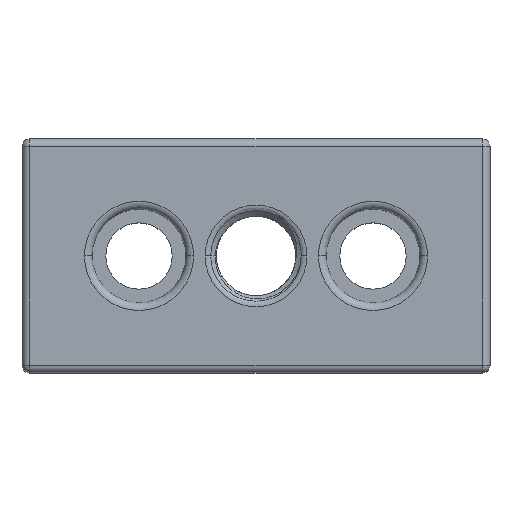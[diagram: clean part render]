
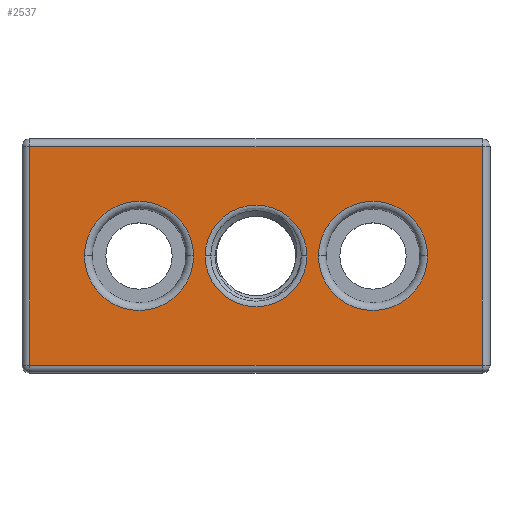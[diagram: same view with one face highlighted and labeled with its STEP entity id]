
A CAD part, top view. The second image highlights one B-rep face of the part: STEP entity #2537.
In plain terms, the highlighted planar face has unit normal (0, 0, 1).
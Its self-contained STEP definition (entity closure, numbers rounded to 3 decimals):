
#28 = FACE_BOUND ( 'NONE', #1954, .T. ) ;
#112 = DIRECTION ( 'NONE',  ( 0., 0., -1. ) ) ;
#115 = VECTOR ( 'NONE', #1552, 1000. ) ;
#137 = AXIS2_PLACEMENT_3D ( 'NONE', #1176, #866, #548 ) ;
#168 = VERTEX_POINT ( 'NONE', #1254 ) ;
#186 = FACE_OUTER_BOUND ( 'NONE', #366, .T. ) ;
#205 = CARTESIAN_POINT ( 'NONE',  ( 15., 0., 6. ) ) ;
#209 = DIRECTION ( 'NONE',  ( 0., 1., 0. ) ) ;
#256 = FACE_BOUND ( 'NONE', #1290, .T. ) ;
#267 = CIRCLE ( 'NONE', #1304, 7. ) ;
#294 = VECTOR ( 'NONE', #761, 1000. ) ;
#322 = CARTESIAN_POINT ( 'NONE',  ( 6.514, 0., 6. ) ) ;
#328 = AXIS2_PLACEMENT_3D ( 'NONE', #2538, #2228, #1926 ) ;
#366 = EDGE_LOOP ( 'NONE', ( #1082, #1781, #1404, #1292 ) ) ;
#373 = DIRECTION ( 'NONE',  ( -1., 0., 0. ) ) ;
#374 = DIRECTION ( 'NONE',  ( 1., 0., 0. ) ) ;
#375 = EDGE_CURVE ( 'NONE', #1799, #2929, #2118, .T. ) ;
#392 = CARTESIAN_POINT ( 'NONE',  ( -6.514, 0., 6. ) ) ;
#410 = CARTESIAN_POINT ( 'NONE',  ( 15., 0., 6. ) ) ;
#418 = DIRECTION ( 'NONE',  ( 1., 0., 0. ) ) ;
#462 = VERTEX_POINT ( 'NONE', #1538 ) ;
#477 = EDGE_LOOP ( 'NONE', ( #1763, #2143 ) ) ;
#506 = CARTESIAN_POINT ( 'NONE',  ( 29., 15., 6. ) ) ;
#516 = CARTESIAN_POINT ( 'NONE',  ( -29., -14., 6. ) ) ;
#529 = VERTEX_POINT ( 'NONE', #2243 ) ;
#548 = DIRECTION ( 'NONE',  ( 1., 0., 0. ) ) ;
#685 = CARTESIAN_POINT ( 'NONE',  ( -30., 14., 6. ) ) ;
#686 = DIRECTION ( 'NONE',  ( 0., 0., -1. ) ) ;
#687 = AXIS2_PLACEMENT_3D ( 'NONE', #1000, #686, #374 ) ;
#694 = AXIS2_PLACEMENT_3D ( 'NONE', #1637, #1333, #1014 ) ;
#724 = ORIENTED_EDGE ( 'NONE', *, *, #2472, .T. ) ;
#734 = DIRECTION ( 'NONE',  ( 0., 0., -1. ) ) ;
#756 = VERTEX_POINT ( 'NONE', #2012 ) ;
#761 = DIRECTION ( 'NONE',  ( 1., 0., 0. ) ) ;
#824 = LINE ( 'NONE', #506, #2665 ) ;
#848 = VERTEX_POINT ( 'NONE', #2803 ) ;
#866 = DIRECTION ( 'NONE',  ( 0., 0., -1. ) ) ;
#955 = CIRCLE ( 'NONE', #694, 7. ) ;
#999 = LINE ( 'NONE', #685, #1741 ) ;
#1000 = CARTESIAN_POINT ( 'NONE',  ( 0., 0., 6. ) ) ;
#1011 = ORIENTED_EDGE ( 'NONE', *, *, #2916, .T. ) ;
#1014 = DIRECTION ( 'NONE',  ( 1., 0., 0. ) ) ;
#1074 = CARTESIAN_POINT ( 'NONE',  ( 30., -14., 6. ) ) ;
#1082 = ORIENTED_EDGE ( 'NONE', *, *, #2509, .T. ) ;
#1176 = CARTESIAN_POINT ( 'NONE',  ( 0., 0., 6. ) ) ;
#1236 = ORIENTED_EDGE ( 'NONE', *, *, #375, .T. ) ;
#1251 = CIRCLE ( 'NONE', #1962, 7. ) ;
#1254 = CARTESIAN_POINT ( 'NONE',  ( 29., 14., 6. ) ) ;
#1290 = EDGE_LOOP ( 'NONE', ( #1236, #2286 ) ) ;
#1292 = ORIENTED_EDGE ( 'NONE', *, *, #1436, .T. ) ;
#1304 = AXIS2_PLACEMENT_3D ( 'NONE', #410, #112, #2835 ) ;
#1333 = DIRECTION ( 'NONE',  ( 0., 0., -1. ) ) ;
#1366 = CARTESIAN_POINT ( 'NONE',  ( -15., 0., 6. ) ) ;
#1404 = ORIENTED_EDGE ( 'NONE', *, *, #2273, .T. ) ;
#1436 = EDGE_CURVE ( 'NONE', #2214, #756, #1698, .T. ) ;
#1524 = CARTESIAN_POINT ( 'NONE',  ( -22., 0., 6. ) ) ;
#1538 = CARTESIAN_POINT ( 'NONE',  ( -29., 14., 6. ) ) ;
#1552 = DIRECTION ( 'NONE',  ( 0., -1., 0. ) ) ;
#1562 = EDGE_CURVE ( 'NONE', #2929, #1799, #1693, .T. ) ;
#1637 = CARTESIAN_POINT ( 'NONE',  ( -15., 0., 6. ) ) ;
#1644 = CIRCLE ( 'NONE', #1991, 7. ) ;
#1693 = CIRCLE ( 'NONE', #687, 6.514 ) ;
#1698 = LINE ( 'NONE', #1074, #294 ) ;
#1741 = VECTOR ( 'NONE', #373, 1000. ) ;
#1763 = ORIENTED_EDGE ( 'NONE', *, *, #1882, .T. ) ;
#1781 = ORIENTED_EDGE ( 'NONE', *, *, #2611, .T. ) ;
#1799 = VERTEX_POINT ( 'NONE', #322 ) ;
#1860 = CARTESIAN_POINT ( 'NONE',  ( -29., -15., 6. ) ) ;
#1871 = VERTEX_POINT ( 'NONE', #1524 ) ;
#1882 = EDGE_CURVE ( 'NONE', #848, #529, #1644, .T. ) ;
#1908 = CARTESIAN_POINT ( 'NONE',  ( -8., 0., 6. ) ) ;
#1926 = DIRECTION ( 'NONE',  ( 1., 0., 0. ) ) ;
#1954 = EDGE_LOOP ( 'NONE', ( #1011, #724 ) ) ;
#1962 = AXIS2_PLACEMENT_3D ( 'NONE', #1366, #734, #418 ) ;
#1991 = AXIS2_PLACEMENT_3D ( 'NONE', #205, #2613, #2297 ) ;
#2012 = CARTESIAN_POINT ( 'NONE',  ( 29., -14., 6. ) ) ;
#2118 = CIRCLE ( 'NONE', #137, 6.514 ) ;
#2143 = ORIENTED_EDGE ( 'NONE', *, *, #2749, .T. ) ;
#2164 = LINE ( 'NONE', #1860, #115 ) ;
#2214 = VERTEX_POINT ( 'NONE', #516 ) ;
#2228 = DIRECTION ( 'NONE',  ( 0., 0., 1. ) ) ;
#2243 = CARTESIAN_POINT ( 'NONE',  ( 8., 0., 6. ) ) ;
#2273 = EDGE_CURVE ( 'NONE', #462, #2214, #2164, .T. ) ;
#2286 = ORIENTED_EDGE ( 'NONE', *, *, #1562, .T. ) ;
#2297 = DIRECTION ( 'NONE',  ( 1., 0., 0. ) ) ;
#2472 = EDGE_CURVE ( 'NONE', #1871, #3042, #1251, .T. ) ;
#2509 = EDGE_CURVE ( 'NONE', #756, #168, #824, .T. ) ;
#2537 = ADVANCED_FACE ( 'NONE', ( #2746, #28, #186, #256 ), #2870, .T. ) ;
#2538 = CARTESIAN_POINT ( 'NONE',  ( 0., 0., 6. ) ) ;
#2611 = EDGE_CURVE ( 'NONE', #168, #462, #999, .T. ) ;
#2613 = DIRECTION ( 'NONE',  ( 0., 0., -1. ) ) ;
#2665 = VECTOR ( 'NONE', #209, 1000. ) ;
#2746 = FACE_BOUND ( 'NONE', #477, .T. ) ;
#2749 = EDGE_CURVE ( 'NONE', #529, #848, #267, .T. ) ;
#2803 = CARTESIAN_POINT ( 'NONE',  ( 22., 0., 6. ) ) ;
#2835 = DIRECTION ( 'NONE',  ( 1., 0., 0. ) ) ;
#2870 = PLANE ( 'NONE',  #328 ) ;
#2916 = EDGE_CURVE ( 'NONE', #3042, #1871, #955, .T. ) ;
#2929 = VERTEX_POINT ( 'NONE', #392 ) ;
#3042 = VERTEX_POINT ( 'NONE', #1908 ) ;
